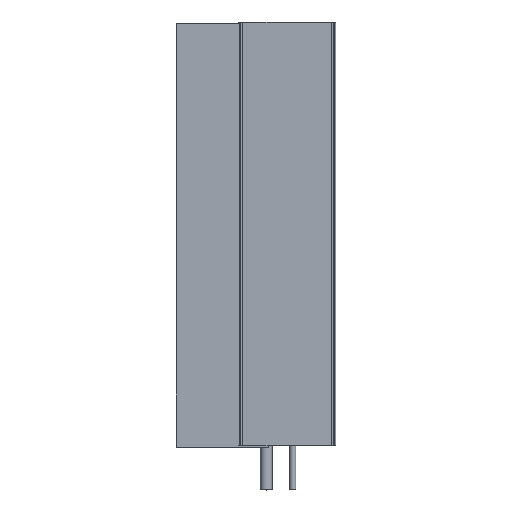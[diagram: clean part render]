
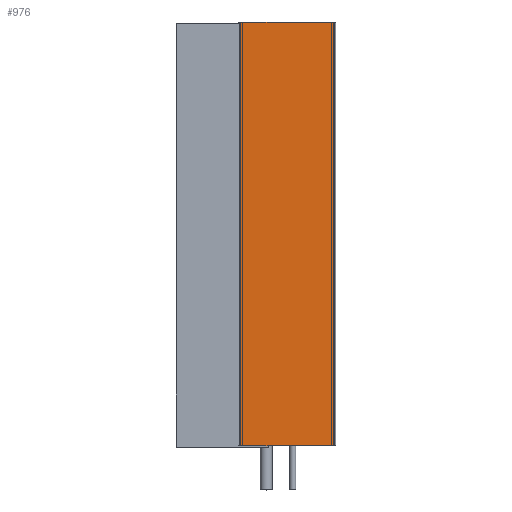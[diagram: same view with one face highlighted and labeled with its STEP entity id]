
A CAD part, top view. The second image highlights one B-rep face of the part: STEP entity #976.
In plain terms, the highlighted planar face has unit normal (0, 0, 1).
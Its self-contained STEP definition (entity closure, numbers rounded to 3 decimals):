
#976 = ADVANCED_FACE( '', ( #2048 ), #2049, .T. );
#2048 = FACE_OUTER_BOUND( '', #3120, .T. );
#2049 = PLANE( '', #3121 );
#3120 = EDGE_LOOP( '', ( #7459, #7460, #7461, #7462 ) );
#3121 = AXIS2_PLACEMENT_3D( '', #7463, #7464, #7465 );
#7459 = ORIENTED_EDGE( '', *, *, #8868, .F. );
#7460 = ORIENTED_EDGE( '', *, *, #8881, .F. );
#7461 = ORIENTED_EDGE( '', *, *, #8879, .T. );
#7462 = ORIENTED_EDGE( '', *, *, #8875, .T. );
#7463 = CARTESIAN_POINT( '', ( 36.5, 335.8, 27. ) );
#7464 = DIRECTION( '', ( 0., 0., 1. ) );
#7465 = DIRECTION( '', ( 1., 0., 0. ) );
#8868 = EDGE_CURVE( '', #11223, #11225, #11226, .T. );
#8875 = EDGE_CURVE( '', #11236, #11225, #11237, .T. );
#8879 = EDGE_CURVE( '', #11242, #11236, #11243, .T. );
#8881 = EDGE_CURVE( '', #11242, #11223, #11245, .T. );
#11223 = VERTEX_POINT( '', #14744 );
#11225 = VERTEX_POINT( '', #14747 );
#11226 = LINE( '', #14748, #14749 );
#11236 = VERTEX_POINT( '', #14765 );
#11237 = LINE( '', #14766, #14767 );
#11242 = VERTEX_POINT( '', #14775 );
#11243 = LINE( '', #14776, #14777 );
#11245 = LINE( '', #14780, #14781 );
#14744 = CARTESIAN_POINT( '', ( 36.5, 0., 27. ) );
#14747 = CARTESIAN_POINT( '', ( -36.5, 0., 27. ) );
#14748 = CARTESIAN_POINT( '', ( 36.5, 0., 27. ) );
#14749 = VECTOR( '', #16672, 1000. );
#14765 = CARTESIAN_POINT( '', ( -36.5, 335.8, 27. ) );
#14766 = CARTESIAN_POINT( '', ( -36.5, 335.8, 27. ) );
#14767 = VECTOR( '', #16679, 1000. );
#14775 = CARTESIAN_POINT( '', ( 36.5, 335.8, 27. ) );
#14776 = CARTESIAN_POINT( '', ( 36.5, 335.8, 27. ) );
#14777 = VECTOR( '', #16683, 1000. );
#14780 = CARTESIAN_POINT( '', ( 36.5, 335.8, 27. ) );
#14781 = VECTOR( '', #16685, 1000. );
#16672 = DIRECTION( '', ( -1., 0., 0. ) );
#16679 = DIRECTION( '', ( 0., -1., 0. ) );
#16683 = DIRECTION( '', ( -1., 0., 0. ) );
#16685 = DIRECTION( '', ( 0., -1., 0. ) );
